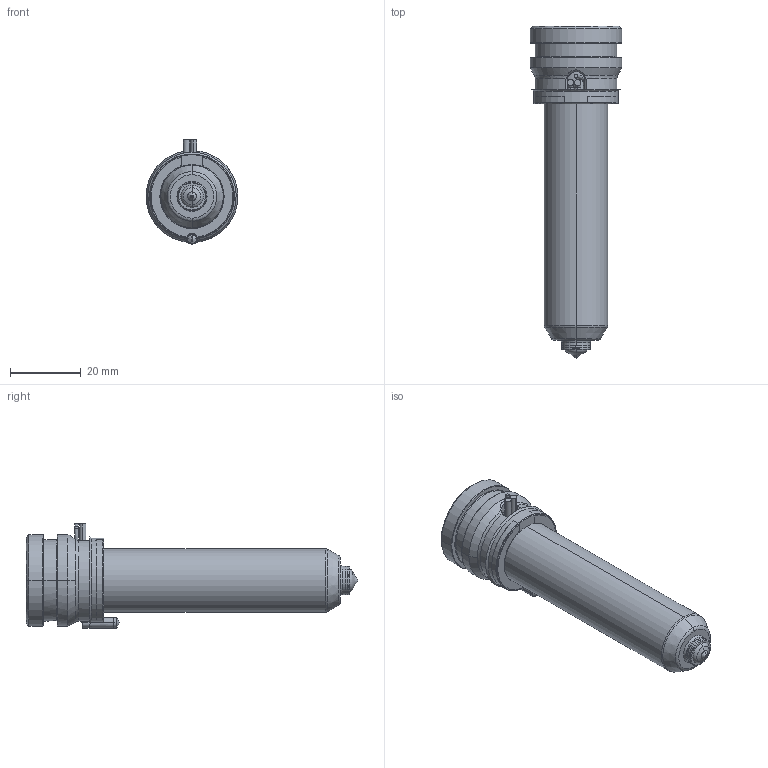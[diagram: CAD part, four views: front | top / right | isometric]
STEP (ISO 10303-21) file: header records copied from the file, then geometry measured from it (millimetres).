
FILE_DESCRIPTION((''),'2;1');
FILE_NAME('TH18076-A-1GLT-PK-JG','2023-12-14T',('umhib'),('Thermoplay S.p.A.'),'PRO/ENGINEER BY PARAMETRIC TECHNOLOGY CORPORATION, 2017170','PRO/ENGINEER BY PARAMETRIC TECHNOLOGY CORPORATION, 2017170','');
FILE_SCHEMA(('CONFIG_CONTROL_DESIGN'));
Length unit declared in the file: millimetre
Products named in the file (1): TH18076-A-1GLT-PK-JG
Bounding box: 26 x 94 x 29.5 mm (x, y, z)
Volume: 20489.3 mm3; surface area: 15144.5 mm2
Topology: 1 solids, 2 shells, 418 faces, 1085 edges, 675 vertices
Faces by surface type: cylinder 162, plane 90, cone 68, torus 62, bspline 24, sphere 10, extrusion 2
Entity records: 18149 total; most frequent: CARTESIAN_POINT 5866, DIRECTION 2189, ORIENTED_EDGE 2146, EDGE_CURVE 1075, AXIS2_PLACEMENT_3D 887, VERTEX_POINT 675, CIRCLE 494, EDGE_LOOP 443
